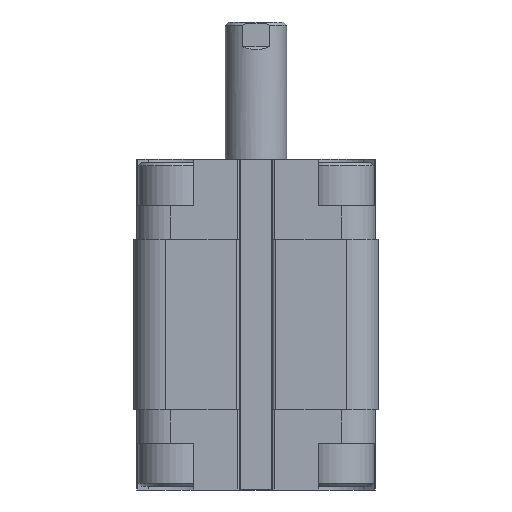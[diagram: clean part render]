
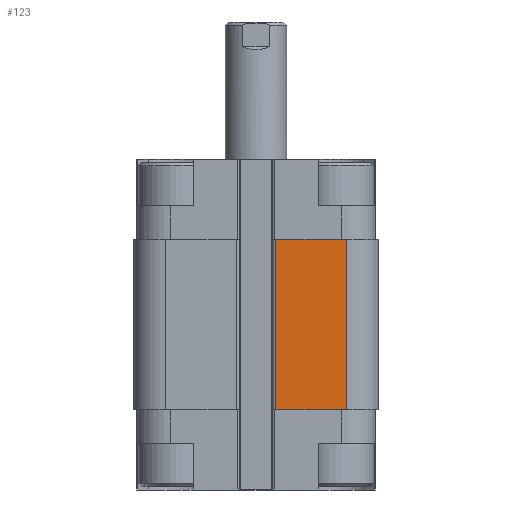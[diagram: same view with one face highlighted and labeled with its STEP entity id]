
A CAD part, front view. The second image highlights one B-rep face of the part: STEP entity #123.
In plain terms, the highlighted planar face has unit normal (0, -1, 0).
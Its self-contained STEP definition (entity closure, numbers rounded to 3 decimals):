
#123 = ADVANCED_FACE ( 'NONE', ( #1555 ), #5577, .F. ) ;
#1555 = FACE_OUTER_BOUND ( 'NONE', #4965, .T. ) ;
#2899 = EDGE_CURVE ( 'NONE', #3202, #3282, #9216, .T. ) ;
#2901 = EDGE_CURVE ( 'NONE', #3201, #3285, #9220, .T. ) ;
#2902 = EDGE_CURVE ( 'NONE', #3282, #3285, #9218, .T. ) ;
#2914 = EDGE_CURVE ( 'NONE', #3201, #3202, #9236, .T. ) ;
#3201 = VERTEX_POINT ( 'NONE', #6216 ) ;
#3202 = VERTEX_POINT ( 'NONE', #6217 ) ;
#3282 = VERTEX_POINT ( 'NONE', #6297 ) ;
#3285 = VERTEX_POINT ( 'NONE', #6300 ) ;
#4545 = AXIS2_PLACEMENT_3D ( 'NONE', #5572, #5580, #5581 ) ;
#4965 = EDGE_LOOP ( 'NONE', ( #7896, #7897, #7898, #7899 ) ) ;
#5572 = CARTESIAN_POINT ( 'NONE',  ( 3.225, -20., 0. ) ) ;
#5577 = PLANE ( 'NONE',  #4545 ) ;
#5580 = DIRECTION ( 'NONE',  ( 0., 1., 0. ) ) ;
#5581 = DIRECTION ( 'NONE',  ( 0., 0., 1. ) ) ;
#6004 = DIRECTION ( 'NONE',  ( 0., 0., 1. ) ) ;
#6008 = CARTESIAN_POINT ( 'NONE',  ( 3.225, -20., 13.9 ) ) ;
#6009 = CARTESIAN_POINT ( 'NONE',  ( 14.75, -20., 13.9 ) ) ;
#6010 = DIRECTION ( 'NONE',  ( 0., 0., 1. ) ) ;
#6012 = CARTESIAN_POINT ( 'NONE',  ( 11.363, -20., 27.8 ) ) ;
#6017 = DIRECTION ( 'NONE',  ( 1., 0., 0. ) ) ;
#6042 = CARTESIAN_POINT ( 'NONE',  ( 8.988, -20., 0. ) ) ;
#6043 = DIRECTION ( 'NONE',  ( -1., 0., 0. ) ) ;
#6216 = CARTESIAN_POINT ( 'NONE',  ( 14.75, -20., 0. ) ) ;
#6217 = CARTESIAN_POINT ( 'NONE',  ( 3.225, -20., 0. ) ) ;
#6297 = CARTESIAN_POINT ( 'NONE',  ( 3.225, -20., 27.8 ) ) ;
#6300 = CARTESIAN_POINT ( 'NONE',  ( 14.75, -20., 27.8 ) ) ;
#7896 = ORIENTED_EDGE ( 'NONE', *, *, #2899, .F. ) ;
#7897 = ORIENTED_EDGE ( 'NONE', *, *, #2914, .F. ) ;
#7898 = ORIENTED_EDGE ( 'NONE', *, *, #2901, .T. ) ;
#7899 = ORIENTED_EDGE ( 'NONE', *, *, #2902, .F. ) ;
#9216 = LINE ( 'NONE', #6008, #9219 ) ;
#9218 = LINE ( 'NONE', #6012, #9224 ) ;
#9219 = VECTOR ( 'NONE', #6010, 1000. ) ;
#9220 = LINE ( 'NONE', #6009, #9222 ) ;
#9222 = VECTOR ( 'NONE', #6004, 1000. ) ;
#9224 = VECTOR ( 'NONE', #6017, 1000. ) ;
#9236 = LINE ( 'NONE', #6042, #9238 ) ;
#9238 = VECTOR ( 'NONE', #6043, 1000. ) ;
